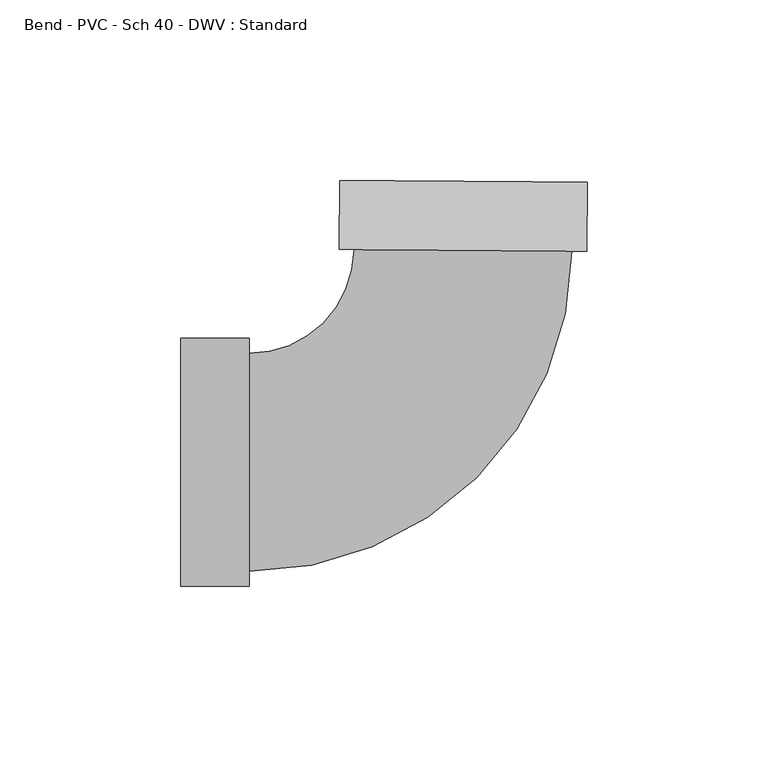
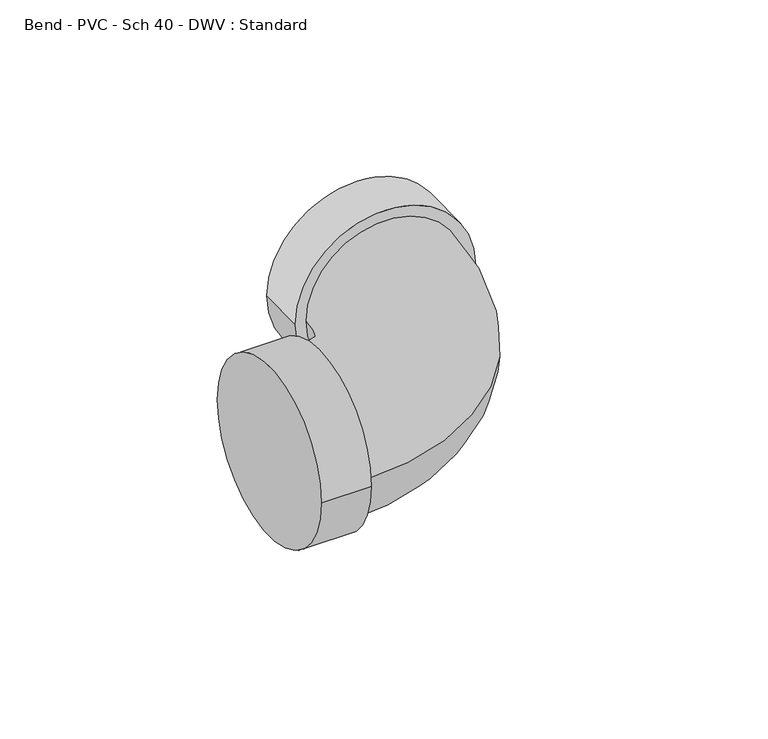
"""IFC4 building model written with IfcOpenShell, lengths in millimetres: pipe fitting geometry, Bend - PVC - Sch 40 - DWV : Standard."""

import ifcopenshell
import ifcopenshell.guid

model = None  # the IFC model being written
_history = None  # IfcOwnerHistory: only IFC2X3 demands one
_inside = {}  # id of a spatial element -> (the spatial element, [elements in it])
_under = {}  # id of a project, library or spatial element -> (it, [spatial elements below it])
_declared = {}  # id of a project -> (the project, [libraries it declares])
_typed = {}  # id of a type object -> (the type object, [elements of that type])
_made_of = {}  # id of a material, layer set ... -> (it, [elements and type objects made of it])


def new_model(schema):
    """Start an empty IFC model of exactly this schema.

    Asked for "IFC4X3", IfcOpenShell would pick the latest addendum, in which some entities
    have other attributes; the version numbers below select the first issue.
    IFC2X3 requires an IfcOwnerHistory on every rooted entity: one is made here for all.
    """
    global model, _history
    if schema == "IFC4X3":
        model = ifcopenshell.file(schema_version=(4, 3, 0, 0))
    else:
        model = ifcopenshell.file(schema=schema)
    _inside.clear()
    _under.clear()
    _declared.clear()
    _typed.clear()
    _made_of.clear()
    _history = None
    if model.schema == "IFC2X3":
        org = make("IfcOrganization", Name="unknown")
        user = make(
            "IfcPersonAndOrganization",
            ThePerson=make("IfcPerson", FamilyName="unknown"),
            TheOrganization=org,
        )
        app = make(
            "IfcApplication",
            ApplicationDeveloper=org,
            Version="unknown",
            ApplicationFullName="unknown",
            ApplicationIdentifier="unknown",
        )
        _history = make(
            "IfcOwnerHistory",
            OwningUser=user,
            OwningApplication=app,
            ChangeAction="ADDED",
            CreationDate=0,
        )
    return model


def make(cls, **values):
    """One entity of the class cls with the attributes given. An attribute that is None is left unset."""
    return model.create_entity(
        cls, **{name: value for name, value in values.items() if value is not None}
    )


def rooted(cls, **values):
    """An entity with a GlobalId (a new one), such as an element, a storey or a relation."""
    return make(cls, GlobalId=ifcopenshell.guid.new(), OwnerHistory=_history, **values)


def si_unit(unit_type, name, prefix=None):
    """IfcSIUnit, for example si_unit("LENGTHUNIT", "METRE", prefix="MILLI")."""
    return make("IfcSIUnit", UnitType=unit_type, Prefix=prefix, Name=name)


def assignment(units):
    """IfcUnitAssignment: the units of a project."""
    return None if units is None else make("IfcUnitAssignment", Units=units)


def point(xyz):
    """IfcCartesianPoint."""
    return None if xyz is None else make("IfcCartesianPoint", Coordinates=xyz)


def direction(xyz):
    """IfcDirection."""
    return None if xyz is None else make("IfcDirection", DirectionRatios=xyz)


def frame(location, z_axis=None, x_axis=None):
    """IfcAxis2Placement3D, a coordinate frame: its origin and axes. An axis left out is left unset."""
    return make(
        "IfcAxis2Placement3D",
        Location=point(location),
        Axis=direction(z_axis),
        RefDirection=direction(x_axis),
    )


def origin():
    """The frame at (0, 0, 0) with its axes left unset."""
    return frame((0.0, 0.0, 0.0))


def place(relative_to, where):
    """IfcLocalPlacement: puts the frame where relative to a parent placement (None: the world)."""
    return make(
        "IfcLocalPlacement", PlacementRelTo=relative_to, RelativePlacement=where
    )


def context(
    kind, dimensions, precision=None, world=None, true_north=None, identifier=None
):
    """IfcGeometricRepresentationContext, for example the 3D "Model" context."""
    return make(
        "IfcGeometricRepresentationContext",
        ContextIdentifier=identifier,
        ContextType=kind,
        CoordinateSpaceDimension=dimensions,
        Precision=precision,
        WorldCoordinateSystem=world,
        TrueNorth=true_north,
    )


def project(units=None, contexts=None):
    """IfcProject with its units and contexts."""
    return rooted(
        "IfcProject",
        Name="project",
        RepresentationContexts=contexts,
        UnitsInContext=assignment(units),
    )


def spatial(cls, under=None, at=None, **own):
    """A site, building, storey or space (cls), placed at a placement, below another one or the project."""
    s = rooted(cls, ObjectPlacement=at, **own)
    if under is not None:
        _under.setdefault(under.id(), (under, []))[1].append(s)
    return s


def circle_curve(where, radius):
    """IfcCircle in the frame where."""
    return make("IfcCircle", Position=where, Radius=radius)


def ellipse_curve(where, semi_axis1, semi_axis2):
    """IfcEllipse in the frame where."""
    return make(
        "IfcEllipse", Position=where, SemiAxis1=semi_axis1, SemiAxis2=semi_axis2
    )


def trimmed(basis, trim1, trim2, sense, master):
    """IfcTrimmedCurve: the piece of a basis curve between two trims."""
    return make(
        "IfcTrimmedCurve",
        BasisCurve=basis,
        Trim1=trim1,
        Trim2=trim2,
        SenseAgreement=sense,
        MasterRepresentation=master,
    )


def shape(context_of_items, identifier, shape_type, items):
    """IfcShapeRepresentation: the items that make up one representation, for example the "Body"."""
    return make(
        "IfcShapeRepresentation",
        ContextOfItems=context_of_items,
        RepresentationIdentifier=identifier,
        RepresentationType=shape_type,
        Items=items,
    )


def source(mapping_origin, context_of_items, identifier, shape_type, items):
    """IfcRepresentationMap: a shape defined once, which mapped items show again and again."""
    return make(
        "IfcRepresentationMap",
        MappingOrigin=mapping_origin,
        MappedRepresentation=shape(context_of_items, identifier, shape_type, items),
    )


def transform(
    local_origin,
    x_axis=None,
    y_axis=None,
    z_axis=None,
    scale=None,
    scale2=None,
    scale3=None,
    uniform=True,
):
    """IfcCartesianTransformationOperator3D, or its non-uniform kind. x_axis, y_axis, z_axis: its Axis1, 2, 3."""
    if uniform:
        return make(
            "IfcCartesianTransformationOperator3D",
            Axis1=direction(x_axis),
            Axis2=direction(y_axis),
            LocalOrigin=point(local_origin),
            Scale=scale,
            Axis3=direction(z_axis),
        )
    return make(
        "IfcCartesianTransformationOperator3DnonUniform",
        Axis1=direction(x_axis),
        Axis2=direction(y_axis),
        LocalOrigin=point(local_origin),
        Scale=scale,
        Axis3=direction(z_axis),
        Scale2=scale2,
        Scale3=scale3,
    )


def mapped(mapping_source, mapping_target):
    """IfcMappedItem: shows the shape of a source again, moved by a transform."""
    return make(
        "IfcMappedItem", MappingSource=mapping_source, MappingTarget=mapping_target
    )


def made_of(thing, what):
    """Note that an element or type object is made of a material, layer set ...; save() writes the relation."""
    if what is not None:
        _made_of.setdefault(what.id(), (what, []))[1].append(thing)
    return thing


def element(
    cls,
    number,
    at=None,
    inside=None,
    cuts=None,
    type_object=None,
    material=None,
    context=None,
    identifier="Body",
    shape_type=None,
    held_by="IfcProductDefinitionShape",
    body=None,
    shapes=None,
    **own,
):
    """One element of the class cls, such as IfcWall. Its Tag is "e" and its number.

    at: its placement. inside: the storey or other place that contains it. cuts: it is an
    opening in that element (IfcRelVoidsElement). A single representation is given by context,
    identifier, shape_type and body (its items); several are given by shapes. held_by: the class
    of the entity that holds the representations. save() writes the other relations.
    """
    e = rooted(cls, Tag="e%d" % number, ObjectPlacement=at, **own)
    if body is not None:
        shapes = [shape(context, identifier, shape_type, body)]
    if shapes is not None:
        e.Representation = make(held_by, Representations=shapes)
    if inside is not None:
        _inside.setdefault(inside.id(), (inside, []))[1].append(e)
    if cuts is not None:
        rooted(
            "IfcRelVoidsElement", RelatingBuildingElement=cuts, RelatedOpeningElement=e
        )
    if type_object is not None:
        _typed.setdefault(type_object.id(), (type_object, []))[1].append(e)
    return made_of(e, material)


def aggregate(whole, parts):
    """IfcRelAggregates: a whole, such as a stair, and the parts it consists of."""
    return rooted("IfcRelAggregates", RelatingObject=whole, RelatedObjects=parts)


def save(model, path):
    """Write the relations noted so far, then the file.

    IfcRelAggregates (storeys below a building ...), IfcRelContainedInSpatialStructure (elements
    in a storey), IfcRelDefinesByType, IfcRelAssociatesMaterial and IfcRelDeclares: one each for
    every whole, place, type object, material and project.
    """
    for whole, parts in _under.values():
        aggregate(whole, parts)
    for where, things in _inside.values():
        rooted(
            "IfcRelContainedInSpatialStructure",
            RelatedElements=things,
            RelatingStructure=where,
        )
    for kind, things in _typed.values():
        rooted("IfcRelDefinesByType", RelatedObjects=things, RelatingType=kind)
    for what, things in _made_of.values():
        rooted("IfcRelAssociatesMaterial", RelatedObjects=things, RelatingMaterial=what)
    for by, libraries in _declared.values():
        rooted("IfcRelDeclares", RelatingContext=by, RelatedDefinitions=libraries)
    model.write(path)


def plane_surface(at):
    """IfcPlane: the flat surface through the origin of the frame at, square to its z axis."""
    return make("IfcPlane", Position=at)


def cylinder_surface(at, radius):
    """IfcCylindricalSurface: all points at the distance radius from the z axis of the frame at."""
    return make("IfcCylindricalSurface", Position=at, Radius=radius)


def revolved_surface(curve, axis_point, axis_direction):
    """IfcSurfaceOfRevolution: the curve turned about the line through axis_point along axis_direction."""
    return make(
        "IfcSurfaceOfRevolution",
        SweptCurve=make("IfcArbitraryOpenProfileDef", ProfileType="CURVE", Curve=curve),
        AxisPosition=make("IfcAxis1Placement", Location=point(axis_point), Axis=direction(axis_direction)),
    )


def advanced_brep(points, edges, surfaces, faces):
    """IfcAdvancedBrep: a solid bounded by faces that lie on surfaces and meet in shared edges.

    An edge is (start, end): straight between two places in points (the first is 0);
    or (start, end, curve); or (start, end, curve, False) where it runs against its curve.
    A face is (place in surfaces, loops), or (place, loops, False) where it looks against
    its surface's normal. A loop lists edges by number (the first is 1), with a minus sign
    where the edge is run from its end to its start. The first loop is the outer one.
    """
    corners = [point(p) for p in points]
    vertices = [make("IfcVertexPoint", VertexGeometry=c) for c in corners]
    made = []
    for start, end, *more in edges:
        made.append(
            make(
                "IfcEdgeCurve",
                EdgeStart=vertices[start],
                EdgeEnd=vertices[end],
                EdgeGeometry=more[0] if more else make("IfcPolyline", Points=[corners[start], corners[end]]),
                SameSense=more[1] if len(more) > 1 else True,
            )
        )
    hull = []
    for where, loops, *sense in faces:
        bounds = []
        for j, loop in enumerate(loops):
            ring = [make("IfcOrientedEdge", EdgeElement=made[abs(k) - 1], Orientation=k > 0) for k in loop]
            bounds.append(
                make(
                    "IfcFaceOuterBound" if j == 0 else "IfcFaceBound",
                    Bound=make("IfcEdgeLoop", EdgeList=ring),
                    Orientation=True,
                )
            )
        hull.append(make("IfcAdvancedFace", Bounds=bounds, FaceSurface=surfaces[where], SameSense=sense[0] if sense else True))
    return make("IfcAdvancedBrep", Outer=make("IfcClosedShell", CfsFaces=hull))


def bend_pvc_sch_40_dwv_standard_afcfb702(model_context):
    return source(origin(), model_context, "Body", "AdvancedBrep", [
        advanced_brep(
        [(-77.8002, -34.3154, 0.0), (-77.8002, 34.3154, 0.0), (-58.7502, -34.3154, 0.0), (-58.7502, 34.3154, 0.0), (-58.7502, -30.1625, 0.0), (-58.7502, 30.1625, 0.0), (-29.7295152, 58.970487, 0.0), (30.5938526, 58.5267339, 0.0), (34.7466403, 58.4961851, 0.0), (-33.8823028, 59.0010359, 0.0), (34.8867728, 77.5456696, 0.0), (-33.7421703, 78.0505204, 0.0)],
        [
            (0, 1, circle_curve(frame((-77.8002, 0.0, 0.0), z_axis=(-1.0, 0.0, 0.0), x_axis=(0.0, 1.0, 0.0)), 34.3154)),
            (1, 0, circle_curve(frame((-77.8002, 0.0, 0.0), z_axis=(-1.0, 0.0, 0.0), x_axis=(0.0, 1.0, 0.0)), 34.3154)),
            (2, 3, circle_curve(frame((-58.7502, 0.0, 0.0), z_axis=(1.0, 0.0, 0.0), x_axis=(0.0, 1.0, 0.0)), 34.3154)),
            (3, 2, circle_curve(frame((-58.7502, 0.0, 0.0), z_axis=(1.0, 0.0, 0.0), x_axis=(0.0, 1.0, 0.0)), 34.3154)),
            (4, 5, circle_curve(frame((-58.7502, 0.0, 0.0), z_axis=(-1.0, 0.0, 0.0), x_axis=(0.0, 1.0, 0.0)), 30.1625)),
            (5, 4, circle_curve(frame((-58.7502, 0.0, 0.0), z_axis=(-1.0, 0.0, 0.0), x_axis=(0.0, 1.0, 0.0)), 30.1625)),
            (0, 2),
            (3, 1),
            (6, 5, circle_curve(frame((-58.7502, 59.18397, 0.0), z_axis=(0.0, 0.0, -1.0), x_axis=(0.0, -1.0, 0.0)), 29.02147)),
            (4, 7, circle_curve(frame((-58.7502, 59.18397, 0.0), z_axis=(0.0, 0.0, 1.0), x_axis=(0.0, -1.0, 0.0)), 89.34647)),
            (7, 6, circle_curve(frame((0.4321687, 58.7486105, 0.0), z_axis=(-0.0073560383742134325, -0.9999729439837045, 0.0), x_axis=(-0.9999729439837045, 0.0073560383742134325, 0.0)), 30.1625)),
            (6, 7, circle_curve(frame((0.4321687, 58.7486105, 0.0), z_axis=(-0.0073560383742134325, -0.9999729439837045, 0.0), x_axis=(-0.9999729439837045, 0.0073560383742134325, 0.0)), 30.1625)),
            (8, 9, circle_curve(frame((0.4321687, 58.7486105, 0.0), z_axis=(-0.007356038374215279, -0.9999729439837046, 0.0), x_axis=(-0.9999729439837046, 0.007356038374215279, 0.0)), 34.3154)),
            (9, 8, circle_curve(frame((0.4321687, 58.7486105, 0.0), z_axis=(-0.007356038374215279, -0.9999729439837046, 0.0), x_axis=(-0.9999729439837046, 0.007356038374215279, 0.0)), 34.3154)),
            (10, 11, circle_curve(frame((0.5723013, 77.798095, 0.0), z_axis=(0.007356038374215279, 0.9999729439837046, 0.0), x_axis=(-0.9999729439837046, 0.007356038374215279, 0.0)), 34.3154)),
            (11, 10, circle_curve(frame((0.5723013, 77.798095, 0.0), z_axis=(0.007356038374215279, 0.9999729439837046, 0.0), x_axis=(-0.9999729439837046, 0.007356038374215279, 0.0)), 34.3154)),
            (8, 10),
            (11, 9),
        ],
        [
            plane_surface(frame((-77.8002, 0.0, 0.0), z_axis=(-1.0, 0.0, 0.0), x_axis=(0.0, 0.0, 1.0))),
            plane_surface(frame((-58.7502, 0.0, 0.0), z_axis=(1.0, 0.0, 0.0), x_axis=(0.0, 0.0, 1.0))),
            cylinder_surface(frame((-77.8002, 0.0, 0.0), z_axis=(-1.0, 0.0, 0.0), x_axis=(0.0, 1.0, 0.0)), 34.3154),
            revolved_surface(trimmed(ellipse_curve(frame((-58.7502, 0.0, 0.0), z_axis=(-1.0, 0.0, 0.0), x_axis=(0.0, 1.0, 0.0)), 30.1625, 30.1625), [point((-58.7502, -30.1625, 0.0))], [point((-58.7502, 30.1625, 0.0))], True, "CARTESIAN"), (-58.7502, 59.18397, 0.0), (0.0, 0.0, 1.0)),
            revolved_surface(trimmed(ellipse_curve(frame((-58.7502, 0.0, 0.0), z_axis=(-1.0, 0.0, 0.0), x_axis=(0.0, 1.0, 0.0)), 30.1625, 30.1625), [point((-58.7502, 30.1625, 0.0))], [point((-58.7502, -30.1625, 0.0))], True, "CARTESIAN"), (-58.7502, 59.18397, 0.0), (0.0, 0.0, 1.0)),
            plane_surface(frame((0.4321687, 58.7486105, 0.0), z_axis=(-0.007356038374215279, -0.9999729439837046, 0.0), x_axis=(0.0, 0.0, 1.0))),
            plane_surface(frame((0.5723013, 77.798095, 0.0), z_axis=(0.007356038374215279, 0.9999729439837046, 0.0), x_axis=(0.0, 0.0, 1.0))),
            cylinder_surface(frame((0.4321687, 58.7486105, 0.0), z_axis=(-0.007356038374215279, -0.9999729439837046, 0.0), x_axis=(-0.9999729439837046, 0.007356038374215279, 0.0)), 34.3154),
        ],
        [
            (0, [[1, 2]]),
            (1, [[3, 4], [5, 6]]),
            (2, [[-1, 7, -4, 8]]),
            (2, [[-2, -8, -3, -7]]),
            (3, [[9, -5, 10, 11]]),
            (4, [[-9, 12, -10, -6]]),
            (5, [[13, 14], [-11, -12]]),
            (6, [[15, 16]]),
            (7, [[-13, 17, -16, 18]]),
            (7, [[-14, -18, -15, -17]]),
        ],
    ),
    ])


if __name__ == "__main__":
    model = new_model("IFC4")
    model_context = context("Model", 3, world=origin())
    ifc_project = project(units=[si_unit("LENGTHUNIT", "METRE", prefix="MILLI")], contexts=[model_context])
    site = spatial("IfcSite", under=ifc_project)
    building = spatial("IfcBuilding", under=site)
    placement = place(None, origin())
    bend_pvc_sch_40_dwv_standard_shape = bend_pvc_sch_40_dwv_standard_afcfb702(model_context)
    element("IfcPipeFitting", 1, ObjectType="Bend - PVC - Sch 40 - DWV : Standard", at=placement, inside=building, context=model_context, shape_type="MappedRepresentation", body=[
        mapped(bend_pvc_sch_40_dwv_standard_shape, transform((0.0, 0.0, 0.0), x_axis=(1.0, 0.0, 0.0), y_axis=(0.0, 1.0, 0.0), z_axis=(0.0, 0.0, 1.0))),
    ])
    save(model, "model.ifc")
